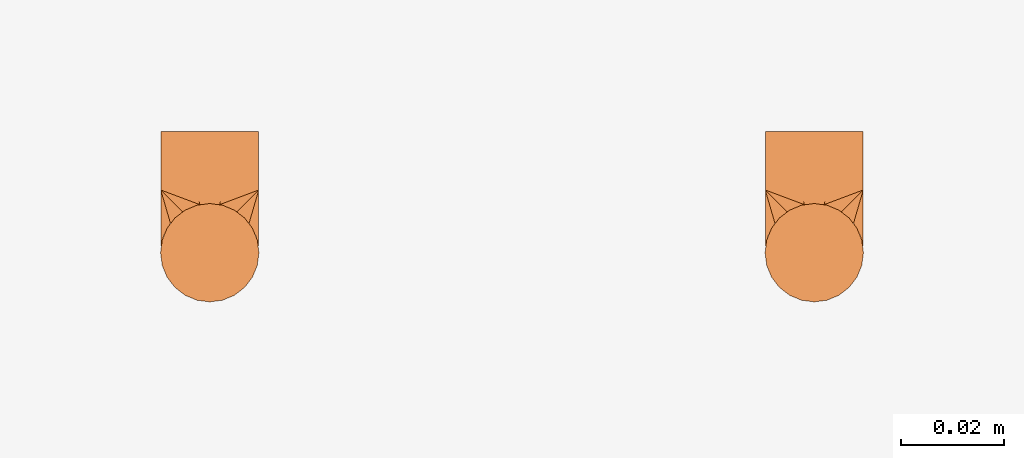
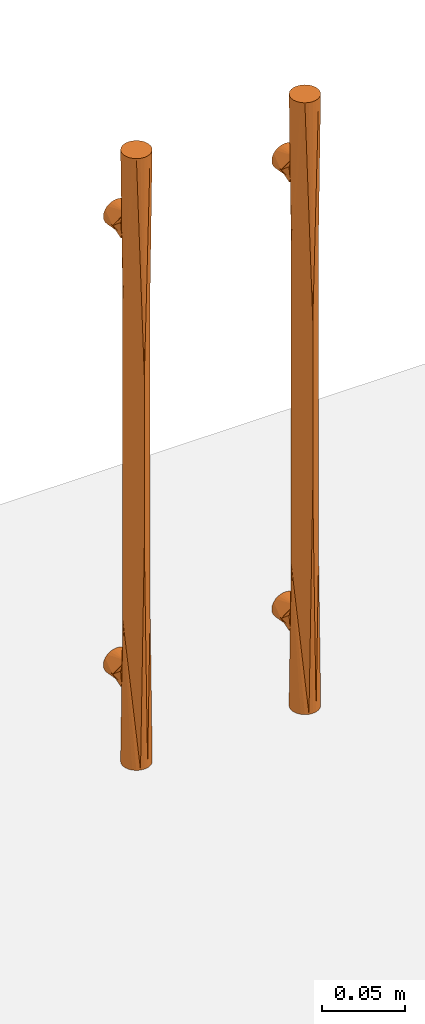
# One storey, part 3 of 4: 2 proxies.
"""IFC2X3 building model written with IfcOpenShell, lengths in millimetres."""

from ifc_helpers import new_model, entity, si_unit, converted_unit, derived_unit, direction, frame, origin, place, context, subcontext, project, spatial, faceted_brep, source, transform, mapped, material, type_object, type_shapes, element, save


model = new_model("IFC2X3")

# Units and contexts
model_context = context("Model", 3, precision=0.01, world=origin(), true_north=direction((6.12303176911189e-17, 1.0)))
context_of_model = context(None, 3, precision=0.01, world=origin(), true_north=direction((6.12303176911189e-17, 1.0)))
body_context = subcontext(model_context, "Body", "Model", "MODEL_VIEW")
ifc_project = project(units=[si_unit("LENGTHUNIT", "METRE", prefix="MILLI"), si_unit("AREAUNIT", "SQUARE_METRE"), si_unit("VOLUMEUNIT", "CUBIC_METRE"), converted_unit("PLANEANGLEUNIT", "DEGREE", entity("IfcRatioMeasure", 0.0174532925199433), si_unit("PLANEANGLEUNIT", "RADIAN"), dimensions=[0, 0, 0, 0, 0, 0, 0]), si_unit("MASSUNIT", "GRAM", prefix="KILO"), derived_unit("MASSDENSITYUNIT", [(si_unit("MASSUNIT", "GRAM", prefix="KILO"), 1), (si_unit("LENGTHUNIT", "METRE"), -3)]), si_unit("TIMEUNIT", "SECOND"), si_unit("FREQUENCYUNIT", "HERTZ"), si_unit("THERMODYNAMICTEMPERATUREUNIT", "DEGREE_CELSIUS"), derived_unit("THERMALTRANSMITTANCEUNIT", [(si_unit("MASSUNIT", "GRAM", prefix="KILO"), 1), (si_unit("THERMODYNAMICTEMPERATUREUNIT", "KELVIN"), -1), (si_unit("TIMEUNIT", "SECOND"), -3)]), derived_unit("VOLUMETRICFLOWRATEUNIT", [(si_unit("LENGTHUNIT", "METRE"), 3), (si_unit("TIMEUNIT", "SECOND"), -1)]), si_unit("ELECTRICCURRENTUNIT", "AMPERE"), si_unit("ELECTRICVOLTAGEUNIT", "VOLT"), si_unit("POWERUNIT", "WATT"), si_unit("FORCEUNIT", "NEWTON", prefix="KILO"), si_unit("ILLUMINANCEUNIT", "LUX"), si_unit("LUMINOUSFLUXUNIT", "LUMEN"), si_unit("LUMINOUSINTENSITYUNIT", "CANDELA"), derived_unit("USERDEFINED", [(si_unit("MASSUNIT", "GRAM", prefix="KILO"), -1), (si_unit("LENGTHUNIT", "METRE"), -2), (si_unit("TIMEUNIT", "SECOND"), 3), (si_unit("LUMINOUSFLUXUNIT", "LUMEN"), 1)]), derived_unit("LINEARVELOCITYUNIT", [(si_unit("LENGTHUNIT", "METRE"), 1), (si_unit("TIMEUNIT", "SECOND"), -1)]), si_unit("PRESSUREUNIT", "PASCAL"), derived_unit("USERDEFINED", [(si_unit("LENGTHUNIT", "METRE"), -2), (si_unit("MASSUNIT", "GRAM", prefix="KILO"), 1), (si_unit("TIMEUNIT", "SECOND"), -2)])], contexts=[model_context, context_of_model])

# Site, building, storey
site_placement = place(None, origin())
site = spatial("IfcSite", under=ifc_project, at=site_placement, Name="Default", CompositionType="ELEMENT")
building_placement = place(site_placement, origin())
building = spatial("IfcBuilding", under=site, at=building_placement, Name="n/a", CompositionType="ELEMENT")
storey_placement = place(building_placement, origin())
storey = spatial("IfcBuildingStorey", under=building, at=storey_placement, Name="Level 0", CompositionType="ELEMENT", Elevation=0.0)

# Proxies
ifc_material_1 = material(Name="DBLTD_Duten_Metal_BrushedStainlessSteel")
building_element_proxy_type_1 = type_object("IfcBuildingElementProxyType", PredefinedType="NOTDEFINED", material=ifc_material_1)
shared_shape_1 = source(origin(), body_context, "Body", "Brep", [
    faceted_brep([(18.7547280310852, 16.8611433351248, 384.331021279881), (20.1271758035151, 14.2969526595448, 386.945673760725), (20.1271758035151, 14.2969526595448, 393.054326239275), (18.7547280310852, 16.8611433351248, 395.668978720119), (3.50644367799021, 16.8585483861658, 395.666356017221), (3.50644367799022, 16.8585483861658, 384.333643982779), (16.4191813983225, 19.0676721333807, 382.10753097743), (5.84226515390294, 19.0665559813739, 382.108653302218), (20.6315606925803, 11.9627029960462, 390.0), (16.4191813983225, 19.0676721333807, 397.89246902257), (5.84226515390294, 19.0665559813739, 397.891346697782), (9.18928749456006, 20.4679610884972, 399.299331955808), (13.073195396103, 20.4680938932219, 399.299465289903), (9.18928749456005, 20.4679610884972, 380.700668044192), (13.0731953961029, 20.4680938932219, 380.700534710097), (2.13472865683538, 14.2934921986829, 386.949260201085), (2.13472865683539, 14.293492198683, 393.050739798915), (1.63156069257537, 11.9627029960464, 390.0), (13.5903416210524, 34.5952722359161, 399.176295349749), (15.8815606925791, 34.5952722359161, 398.227241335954), (17.8490751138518, 34.5952722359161, 396.717514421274), (19.3588020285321, 34.5952722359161, 394.750000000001), (20.3078560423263, 34.5952722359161, 392.458780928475), (20.6315606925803, 34.5952722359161, 390.0), (20.3078560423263, 34.5952722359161, 387.541219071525), (19.3588020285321, 34.5952722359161, 385.249999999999), (17.8490751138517, 34.5952722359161, 383.282485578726), (15.881560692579, 34.5952722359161, 381.772758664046), (13.5903416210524, 34.5952722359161, 380.823704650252), (11.1315606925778, 34.5952722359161, 380.499999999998), (8.67277976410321, 34.5952722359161, 380.823704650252), (6.38156069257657, 34.5952722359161, 381.772758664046), (4.41404627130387, 34.5952722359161, 383.282485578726), (2.90431935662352, 34.5952722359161, 385.249999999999), (1.9552653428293, 34.5952722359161, 387.541219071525), (1.63156069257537, 34.5952722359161, 390.0), (1.95526534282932, 34.5952722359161, 392.458780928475), (2.90431935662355, 34.5952722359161, 394.750000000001), (4.41404627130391, 34.5952722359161, 396.717514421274), (6.38156069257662, 34.5952722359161, 398.227241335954), (8.67277976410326, 34.5952722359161, 399.176295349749), (11.1315606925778, 34.5952722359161, 399.500000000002), (1.63156069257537, 23.2978504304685, 390.0), (1.63156069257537, 17.6302767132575, 390.0), (1.63156069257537, 14.7964898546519, 390.0), (20.6315606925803, 23.2978504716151, 390.0), (20.6315606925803, 17.6302767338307, 390.0), (20.6315606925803, 14.7964898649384, 390.0)], [[[0, 1, 2, 3]], [[0, 3, 4, 5]], [[6, 0, 7]], [[2, 1, 8]], [[9, 10, 3]], [[11, 9, 12]], [[13, 14, 6]], [[7, 0, 5]], [[15, 5, 4, 16]], [[11, 10, 9]], [[4, 3, 10]], [[16, 17, 15]], [[7, 13, 6]], [[18, 19, 20, 21, 22, 23, 24, 25, 26, 27, 28, 29, 30, 31, 32, 33, 34, 35, 36, 37, 38, 39, 40, 41]], [[34, 33, 42]], [[32, 13, 42]], [[32, 42, 33]], [[32, 31, 13]], [[15, 43, 5]], [[34, 42, 35]], [[15, 17, 44, 43]], [[13, 7, 42]], [[5, 42, 7]], [[13, 30, 29]], [[31, 30, 13]], [[43, 42, 5]], [[28, 14, 29]], [[27, 14, 28]], [[26, 25, 45]], [[27, 26, 14]], [[25, 24, 45]], [[0, 46, 1]], [[26, 45, 14]], [[14, 45, 6]], [[1, 46, 47, 8]], [[0, 6, 45]], [[23, 45, 24]], [[45, 46, 0]], [[29, 14, 13]], [[22, 21, 45]], [[20, 12, 45]], [[20, 45, 21]], [[20, 19, 12]], [[2, 46, 3]], [[22, 45, 23]], [[16, 43, 44, 17]], [[12, 9, 45]], [[3, 45, 9]], [[12, 18, 41]], [[4, 43, 16]], [[19, 18, 12]], [[42, 43, 4]], [[40, 11, 41]], [[39, 11, 40]], [[38, 37, 42]], [[39, 38, 11]], [[37, 36, 42]], [[2, 8, 47, 46]], [[38, 42, 11]], [[11, 42, 10]], [[4, 10, 42]], [[35, 42, 36]], [[46, 45, 3]], [[41, 11, 12]]]),
    faceted_brep([(13.5903416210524, 34.5952722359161, 69.176295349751), (15.8815606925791, 34.5952722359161, 68.2272413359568), (17.8490751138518, 34.5952722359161, 66.7175144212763), (19.3588020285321, 34.5952722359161, 64.7500000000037), (20.3078560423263, 34.5952722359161, 62.458780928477), (20.6315606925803, 34.5952722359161, 60.0), (20.3078560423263, 34.5952722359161, 57.5412190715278), (19.3588020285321, 34.5952722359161, 55.2500000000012), (17.8490751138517, 34.5952722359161, 53.2824855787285), (15.881560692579, 34.5952722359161, 51.7727586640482), (13.5903416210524, 34.5952722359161, 50.8237046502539), (11.1315606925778, 34.5952722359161, 50.5), (8.67277976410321, 34.5952722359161, 50.8237046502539), (6.38156069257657, 34.5952722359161, 51.7727586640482), (4.41404627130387, 34.5952722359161, 53.2824855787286), (2.90431935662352, 34.5952722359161, 55.2500000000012), (1.9552653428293, 34.5952722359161, 57.5412190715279), (1.63156069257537, 34.5952722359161, 60.0), (1.95526534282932, 34.5952722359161, 62.4587809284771), (2.90431935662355, 34.5952722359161, 64.7500000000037), (4.41404627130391, 34.5952722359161, 66.7175144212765), (6.38156069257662, 34.5952722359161, 68.2272413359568), (8.67277976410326, 34.5952722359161, 69.176295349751), (11.1315606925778, 34.5952722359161, 69.5000000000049), (1.63156069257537, 23.2978504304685, 60.0), (9.18928749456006, 20.4679610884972, 50.7006680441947), (2.13472865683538, 14.2934921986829, 56.9492602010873), (1.63156069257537, 17.6302767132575, 60.0), (3.50644367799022, 16.8585483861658, 54.3336439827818), (1.63156069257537, 11.9627029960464, 60.0), (1.63156069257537, 14.7964898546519, 60.0), (5.84226515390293, 19.0665559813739, 52.1086533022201), (13.073195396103, 20.4680938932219, 50.7005347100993), (20.6315606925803, 23.2978504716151, 60.0), (18.7547280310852, 16.8611433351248, 54.3310212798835), (20.6315606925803, 17.6302767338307, 60.0), (20.1271758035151, 14.2969526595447, 56.9456737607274), (16.4191813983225, 19.0676721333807, 52.1075309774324), (20.6315606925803, 14.7964898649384, 60.0), (20.6315606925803, 11.9627029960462, 60.0), (13.073195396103, 20.4680938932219, 69.2994652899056), (20.1271758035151, 14.2969526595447, 63.0543262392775), (18.7547280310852, 16.8611433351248, 65.6689787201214), (2.13472865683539, 14.293492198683, 63.0507397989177), (16.4191813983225, 19.0676721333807, 67.8924690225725), (3.50644367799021, 16.8585483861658, 65.6663560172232), (9.18928749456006, 20.4679610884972, 69.2993319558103), (5.84226515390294, 19.0665559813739, 67.8913466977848)], [[[0, 1, 2, 3, 4, 5, 6, 7, 8, 9, 10, 11, 12, 13, 14, 15, 16, 17, 18, 19, 20, 21, 22, 23]], [[16, 15, 24]], [[14, 25, 24]], [[14, 24, 15]], [[14, 13, 25]], [[26, 27, 28]], [[16, 24, 17]], [[26, 29, 30, 27]], [[25, 31, 24]], [[28, 24, 31]], [[25, 12, 11]], [[13, 12, 25]], [[27, 24, 28]], [[10, 32, 11]], [[9, 32, 10]], [[8, 7, 33]], [[9, 8, 32]], [[7, 6, 33]], [[34, 35, 36]], [[8, 33, 32]], [[32, 33, 37]], [[36, 35, 38, 39]], [[34, 37, 33]], [[5, 33, 6]], [[33, 35, 34]], [[11, 32, 25]], [[4, 3, 33]], [[2, 40, 33]], [[2, 33, 3]], [[2, 1, 40]], [[41, 35, 42]], [[4, 33, 5]], [[43, 27, 30, 29]], [[40, 44, 33]], [[42, 33, 44]], [[40, 0, 23]], [[45, 27, 43]], [[1, 0, 40]], [[24, 27, 45]], [[22, 46, 23]], [[21, 46, 22]], [[20, 19, 24]], [[21, 20, 46]], [[19, 18, 24]], [[41, 39, 38, 35]], [[20, 24, 46]], [[46, 24, 47]], [[45, 47, 24]], [[17, 24, 18]], [[35, 33, 42]], [[23, 46, 40]], [[34, 36, 41, 42]], [[34, 42, 45, 28]], [[37, 34, 31]], [[41, 36, 39]], [[44, 47, 42]], [[46, 44, 40]], [[25, 32, 37]], [[31, 34, 28]], [[26, 28, 45, 43]], [[46, 47, 44]], [[45, 42, 47]], [[43, 29, 26]], [[31, 25, 37]]]),
    faceted_brep([(13.5997337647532, 1.92021338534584, 450.0), (15.8997049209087, 2.87289263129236, 450.0), (17.8747349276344, 4.38838645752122, 450.0), (19.3902287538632, 6.36341646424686, 450.0), (20.3429079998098, 8.66338762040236, 450.0), (20.6678491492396, 11.1315606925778, 450.0), (20.3429079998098, 13.5997337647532, 450.0), (19.3902287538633, 15.8997049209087, 450.0), (17.8747349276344, 17.8747349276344, 450.0), (15.8997049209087, 19.3902287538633, 450.0), (13.5997337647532, 20.3429079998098, 450.0), (11.1315606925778, 20.6678491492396, 450.0), (8.66338762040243, 20.3429079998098, 450.0), (6.36341646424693, 19.3902287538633, 450.0), (4.38838645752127, 17.8747349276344, 450.0), (2.8728926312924, 15.8997049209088, 450.0), (1.92021338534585, 13.5997337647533, 450.0), (1.595272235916, 11.1315606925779, 450.0), (1.92021338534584, 8.66338762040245, 450.0), (2.87289263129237, 6.36341646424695, 450.0), (4.38838645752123, 4.38838645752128, 450.0), (6.36341646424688, 2.87289263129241, 450.0), (8.66338762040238, 1.92021338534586, 450.0), (11.1315606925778, 1.595272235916, 450.0), (20.3429079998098, 13.5997337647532, 0.0), (20.6678491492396, 11.1315606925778, 0.0), (20.3429079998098, 8.66338762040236, 0.0), (19.3902287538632, 6.36341646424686, 0.0), (17.8747349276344, 4.38838645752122, 0.0), (15.8997049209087, 2.87289263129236, 0.0), (13.5997337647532, 1.92021338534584, 0.0), (11.1315606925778, 1.595272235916, 0.0), (8.66338762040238, 1.92021338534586, 0.0), (6.36341646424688, 2.87289263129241, 0.0), (4.38838645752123, 4.38838645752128, 0.0), (2.87289263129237, 6.36341646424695, 0.0), (1.92021338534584, 8.66338762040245, 0.0), (1.595272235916, 11.1315606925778, 0.0), (1.92021338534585, 13.5997337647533, 0.0), (2.8728926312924, 15.8997049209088, 0.0), (4.38838645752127, 17.8747349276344, 0.0), (6.36341646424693, 19.3902287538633, 0.0), (8.66338762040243, 20.3429079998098, 0.0), (11.1315606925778, 20.6678491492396, 0.0), (13.5997337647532, 20.3429079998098, 0.0), (15.8997049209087, 19.3902287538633, 0.0), (17.8747349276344, 17.8747349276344, 0.0), (19.3902287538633, 15.8997049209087, 0.0), (11.1315607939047, 1.595272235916, 288.259633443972), (11.1315610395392, 1.59527223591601, 166.413462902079), (20.6678491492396, 11.1315606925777, 107.826913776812), (20.6678491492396, 11.1315606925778, 225.0), (20.6678491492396, 11.1315606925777, 234.346172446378), (1.595272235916, 11.1315606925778, 342.173083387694), (20.6678491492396, 11.1315606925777, 342.17308622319), (1.595272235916, 11.1315606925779, 107.826913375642), (1.595272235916, 11.1315606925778, 224.999998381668), (1.595272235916, 11.1315606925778, 234.34617730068), (11.131560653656, 20.6678491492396, 288.259633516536), (11.1315605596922, 20.6678491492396, 166.413462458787)], [[[0, 1, 2, 3, 4, 5, 6, 7, 8, 9, 10, 11, 12, 13, 14, 15, 16, 17, 18, 19, 20, 21, 22, 23]], [[24, 25, 26, 27, 28, 29, 30, 31, 32, 33, 34, 35, 36, 37, 38, 39, 40, 41, 42, 43, 44, 45, 46, 47]], [[0, 23, 48]], [[49, 50, 51, 52]], [[21, 53, 48]], [[54, 2, 1]], [[26, 25, 50]], [[4, 54, 5]], [[30, 50, 49]], [[32, 49, 55]], [[35, 55, 36]], [[18, 17, 53]], [[36, 55, 37]], [[34, 33, 55]], [[48, 23, 22]], [[48, 52, 54]], [[3, 54, 4]], [[56, 55, 49]], [[53, 19, 18]], [[55, 35, 34]], [[31, 49, 32]], [[33, 32, 55]], [[29, 50, 30]], [[50, 28, 27]], [[50, 27, 26]], [[30, 49, 31]], [[52, 48, 49]], [[3, 2, 54]], [[48, 56, 49]], [[20, 19, 53]], [[53, 21, 20]], [[21, 48, 22]], [[1, 0, 48]], [[54, 1, 48]], [[48, 53, 57, 56]], [[29, 28, 50]], [[53, 14, 13]], [[58, 54, 52, 51]], [[43, 59, 44]], [[15, 53, 16]], [[45, 44, 50]], [[50, 47, 46]], [[58, 57, 53]], [[59, 42, 55]], [[6, 5, 54]], [[50, 25, 24]], [[54, 7, 6]], [[44, 59, 50]], [[47, 50, 24]], [[50, 59, 51]], [[12, 11, 58]], [[10, 58, 11]], [[38, 37, 55]], [[17, 16, 53]], [[46, 45, 50]], [[41, 55, 42]], [[40, 39, 55]], [[58, 51, 59]], [[55, 39, 38]], [[42, 59, 43]], [[59, 57, 58]], [[15, 14, 53]], [[59, 55, 56, 57]], [[54, 8, 7]], [[54, 9, 8]], [[10, 9, 58]], [[12, 58, 13]], [[53, 13, 58]], [[9, 54, 58]], [[41, 40, 55]]]),
])
type_shapes(building_element_proxy_type_1, [shared_shape_1])
proxy_1_placement = place(storey_placement, frame((2350.69669078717, 266.619771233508, 775.0)))
element("IfcBuildingElementProxy", 1, at=proxy_1_placement, inside=storey, type_object=building_element_proxy_type_1, material=ifc_material_1, Name="(11)", ObjectType="DBLTD_Duten_PullHandles_Q911:Brushed Stainless Steel Pull Handle", context=body_context, shape_type="MappedRepresentation", body=[
    mapped(shared_shape_1, transform((0.0, 0.0, 0.0), scale=1.0)),
])
ifc_material_2 = material(Name="DBLTD_Duten_Metal_Chrome")
building_element_proxy_type_2 = type_object("IfcBuildingElementProxyType", PredefinedType="NOTDEFINED", material=ifc_material_2)
shared_shape_2 = source(origin(), body_context, "Body", "Brep", [
    faceted_brep([(18.7547280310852, 16.8611433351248, 384.331021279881), (20.1271758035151, 14.2969526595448, 386.945673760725), (20.1271758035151, 14.2969526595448, 393.054326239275), (18.7547280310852, 16.8611433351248, 395.668978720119), (3.50644367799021, 16.8585483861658, 395.666356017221), (3.50644367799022, 16.8585483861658, 384.333643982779), (16.4191813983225, 19.0676721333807, 382.10753097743), (5.84226515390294, 19.0665559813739, 382.108653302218), (20.6315606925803, 11.9627029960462, 390.0), (16.4191813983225, 19.0676721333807, 397.89246902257), (5.84226515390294, 19.0665559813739, 397.891346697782), (9.18928749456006, 20.4679610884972, 399.299331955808), (13.073195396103, 20.4680938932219, 399.299465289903), (9.18928749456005, 20.4679610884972, 380.700668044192), (13.0731953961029, 20.4680938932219, 380.700534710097), (2.13472865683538, 14.2934921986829, 386.949260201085), (2.13472865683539, 14.293492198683, 393.050739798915), (1.63156069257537, 11.9627029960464, 390.0), (13.5903416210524, 34.5952722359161, 399.176295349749), (15.8815606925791, 34.5952722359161, 398.227241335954), (17.8490751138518, 34.5952722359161, 396.717514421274), (19.3588020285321, 34.5952722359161, 394.750000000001), (20.3078560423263, 34.5952722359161, 392.458780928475), (20.6315606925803, 34.5952722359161, 390.0), (20.3078560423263, 34.5952722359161, 387.541219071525), (19.3588020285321, 34.5952722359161, 385.249999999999), (17.8490751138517, 34.5952722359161, 383.282485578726), (15.881560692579, 34.5952722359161, 381.772758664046), (13.5903416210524, 34.5952722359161, 380.823704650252), (11.1315606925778, 34.5952722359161, 380.499999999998), (8.67277976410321, 34.5952722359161, 380.823704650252), (6.38156069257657, 34.5952722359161, 381.772758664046), (4.41404627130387, 34.5952722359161, 383.282485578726), (2.90431935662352, 34.5952722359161, 385.249999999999), (1.9552653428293, 34.5952722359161, 387.541219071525), (1.63156069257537, 34.5952722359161, 390.0), (1.95526534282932, 34.5952722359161, 392.458780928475), (2.90431935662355, 34.5952722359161, 394.750000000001), (4.41404627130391, 34.5952722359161, 396.717514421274), (6.38156069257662, 34.5952722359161, 398.227241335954), (8.67277976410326, 34.5952722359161, 399.176295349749), (11.1315606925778, 34.5952722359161, 399.500000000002), (1.63156069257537, 23.2978504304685, 390.0), (1.63156069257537, 17.6302767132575, 390.0), (1.63156069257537, 14.7964898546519, 390.0), (20.6315606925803, 23.2978504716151, 390.0), (20.6315606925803, 17.6302767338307, 390.0), (20.6315606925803, 14.7964898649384, 390.0)], [[[0, 1, 2, 3]], [[0, 3, 4, 5]], [[6, 0, 7]], [[2, 1, 8]], [[9, 10, 3]], [[11, 9, 12]], [[13, 14, 6]], [[7, 0, 5]], [[15, 5, 4, 16]], [[11, 10, 9]], [[4, 3, 10]], [[16, 17, 15]], [[7, 13, 6]], [[18, 19, 20, 21, 22, 23, 24, 25, 26, 27, 28, 29, 30, 31, 32, 33, 34, 35, 36, 37, 38, 39, 40, 41]], [[34, 33, 42]], [[32, 13, 42]], [[32, 42, 33]], [[32, 31, 13]], [[15, 43, 5]], [[34, 42, 35]], [[15, 17, 44, 43]], [[13, 7, 42]], [[5, 42, 7]], [[13, 30, 29]], [[31, 30, 13]], [[43, 42, 5]], [[28, 14, 29]], [[27, 14, 28]], [[26, 25, 45]], [[27, 26, 14]], [[25, 24, 45]], [[0, 46, 1]], [[26, 45, 14]], [[14, 45, 6]], [[1, 46, 47, 8]], [[0, 6, 45]], [[23, 45, 24]], [[45, 46, 0]], [[29, 14, 13]], [[22, 21, 45]], [[20, 12, 45]], [[20, 45, 21]], [[20, 19, 12]], [[2, 46, 3]], [[22, 45, 23]], [[16, 43, 44, 17]], [[12, 9, 45]], [[3, 45, 9]], [[12, 18, 41]], [[4, 43, 16]], [[19, 18, 12]], [[42, 43, 4]], [[40, 11, 41]], [[39, 11, 40]], [[38, 37, 42]], [[39, 38, 11]], [[37, 36, 42]], [[2, 8, 47, 46]], [[38, 42, 11]], [[11, 42, 10]], [[4, 10, 42]], [[35, 42, 36]], [[46, 45, 3]], [[41, 11, 12]]]),
    faceted_brep([(13.5903416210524, 34.5952722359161, 69.176295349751), (15.8815606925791, 34.5952722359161, 68.2272413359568), (17.8490751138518, 34.5952722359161, 66.7175144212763), (19.3588020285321, 34.5952722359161, 64.7500000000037), (20.3078560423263, 34.5952722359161, 62.458780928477), (20.6315606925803, 34.5952722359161, 60.0), (20.3078560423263, 34.5952722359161, 57.5412190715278), (19.3588020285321, 34.5952722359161, 55.2500000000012), (17.8490751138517, 34.5952722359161, 53.2824855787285), (15.881560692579, 34.5952722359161, 51.7727586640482), (13.5903416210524, 34.5952722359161, 50.8237046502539), (11.1315606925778, 34.5952722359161, 50.5), (8.67277976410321, 34.5952722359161, 50.8237046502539), (6.38156069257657, 34.5952722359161, 51.7727586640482), (4.41404627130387, 34.5952722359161, 53.2824855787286), (2.90431935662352, 34.5952722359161, 55.2500000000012), (1.9552653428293, 34.5952722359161, 57.5412190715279), (1.63156069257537, 34.5952722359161, 60.0), (1.95526534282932, 34.5952722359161, 62.4587809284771), (2.90431935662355, 34.5952722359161, 64.7500000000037), (4.41404627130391, 34.5952722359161, 66.7175144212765), (6.38156069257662, 34.5952722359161, 68.2272413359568), (8.67277976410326, 34.5952722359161, 69.176295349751), (11.1315606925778, 34.5952722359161, 69.5000000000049), (1.63156069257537, 23.2978504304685, 60.0), (9.18928749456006, 20.4679610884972, 50.7006680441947), (2.13472865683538, 14.2934921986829, 56.9492602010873), (1.63156069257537, 17.6302767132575, 60.0), (3.50644367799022, 16.8585483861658, 54.3336439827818), (1.63156069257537, 11.9627029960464, 60.0), (1.63156069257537, 14.7964898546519, 60.0), (5.84226515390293, 19.0665559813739, 52.1086533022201), (13.073195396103, 20.4680938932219, 50.7005347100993), (20.6315606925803, 23.2978504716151, 60.0), (18.7547280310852, 16.8611433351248, 54.3310212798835), (20.6315606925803, 17.6302767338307, 60.0), (20.1271758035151, 14.2969526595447, 56.9456737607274), (16.4191813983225, 19.0676721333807, 52.1075309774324), (20.6315606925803, 14.7964898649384, 60.0), (20.6315606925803, 11.9627029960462, 60.0), (13.073195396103, 20.4680938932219, 69.2994652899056), (20.1271758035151, 14.2969526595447, 63.0543262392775), (18.7547280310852, 16.8611433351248, 65.6689787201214), (2.13472865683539, 14.293492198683, 63.0507397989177), (16.4191813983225, 19.0676721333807, 67.8924690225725), (3.50644367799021, 16.8585483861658, 65.6663560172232), (9.18928749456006, 20.4679610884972, 69.2993319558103), (5.84226515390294, 19.0665559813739, 67.8913466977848)], [[[0, 1, 2, 3, 4, 5, 6, 7, 8, 9, 10, 11, 12, 13, 14, 15, 16, 17, 18, 19, 20, 21, 22, 23]], [[16, 15, 24]], [[14, 25, 24]], [[14, 24, 15]], [[14, 13, 25]], [[26, 27, 28]], [[16, 24, 17]], [[26, 29, 30, 27]], [[25, 31, 24]], [[28, 24, 31]], [[25, 12, 11]], [[13, 12, 25]], [[27, 24, 28]], [[10, 32, 11]], [[9, 32, 10]], [[8, 7, 33]], [[9, 8, 32]], [[7, 6, 33]], [[34, 35, 36]], [[8, 33, 32]], [[32, 33, 37]], [[36, 35, 38, 39]], [[34, 37, 33]], [[5, 33, 6]], [[33, 35, 34]], [[11, 32, 25]], [[4, 3, 33]], [[2, 40, 33]], [[2, 33, 3]], [[2, 1, 40]], [[41, 35, 42]], [[4, 33, 5]], [[43, 27, 30, 29]], [[40, 44, 33]], [[42, 33, 44]], [[40, 0, 23]], [[45, 27, 43]], [[1, 0, 40]], [[24, 27, 45]], [[22, 46, 23]], [[21, 46, 22]], [[20, 19, 24]], [[21, 20, 46]], [[19, 18, 24]], [[41, 39, 38, 35]], [[20, 24, 46]], [[46, 24, 47]], [[45, 47, 24]], [[17, 24, 18]], [[35, 33, 42]], [[23, 46, 40]], [[34, 36, 41, 42]], [[34, 42, 45, 28]], [[37, 34, 31]], [[41, 36, 39]], [[44, 47, 42]], [[46, 44, 40]], [[25, 32, 37]], [[31, 34, 28]], [[26, 28, 45, 43]], [[46, 47, 44]], [[45, 42, 47]], [[43, 29, 26]], [[31, 25, 37]]]),
    faceted_brep([(13.5997337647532, 1.92021338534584, 450.0), (15.8997049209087, 2.87289263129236, 450.0), (17.8747349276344, 4.38838645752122, 450.0), (19.3902287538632, 6.36341646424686, 450.0), (20.3429079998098, 8.66338762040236, 450.0), (20.6678491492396, 11.1315606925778, 450.0), (20.3429079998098, 13.5997337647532, 450.0), (19.3902287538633, 15.8997049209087, 450.0), (17.8747349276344, 17.8747349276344, 450.0), (15.8997049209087, 19.3902287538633, 450.0), (13.5997337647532, 20.3429079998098, 450.0), (11.1315606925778, 20.6678491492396, 450.0), (8.66338762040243, 20.3429079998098, 450.0), (6.36341646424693, 19.3902287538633, 450.0), (4.38838645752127, 17.8747349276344, 450.0), (2.8728926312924, 15.8997049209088, 450.0), (1.92021338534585, 13.5997337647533, 450.0), (1.595272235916, 11.1315606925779, 450.0), (1.92021338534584, 8.66338762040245, 450.0), (2.87289263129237, 6.36341646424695, 450.0), (4.38838645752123, 4.38838645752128, 450.0), (6.36341646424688, 2.87289263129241, 450.0), (8.66338762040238, 1.92021338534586, 450.0), (11.1315606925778, 1.595272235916, 450.0), (20.3429079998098, 13.5997337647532, 0.0), (20.6678491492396, 11.1315606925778, 0.0), (20.3429079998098, 8.66338762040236, 0.0), (19.3902287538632, 6.36341646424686, 0.0), (17.8747349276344, 4.38838645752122, 0.0), (15.8997049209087, 2.87289263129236, 0.0), (13.5997337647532, 1.92021338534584, 0.0), (11.1315606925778, 1.595272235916, 0.0), (8.66338762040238, 1.92021338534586, 0.0), (6.36341646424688, 2.87289263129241, 0.0), (4.38838645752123, 4.38838645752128, 0.0), (2.87289263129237, 6.36341646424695, 0.0), (1.92021338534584, 8.66338762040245, 0.0), (1.595272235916, 11.1315606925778, 0.0), (1.92021338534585, 13.5997337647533, 0.0), (2.8728926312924, 15.8997049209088, 0.0), (4.38838645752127, 17.8747349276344, 0.0), (6.36341646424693, 19.3902287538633, 0.0), (8.66338762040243, 20.3429079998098, 0.0), (11.1315606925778, 20.6678491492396, 0.0), (13.5997337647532, 20.3429079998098, 0.0), (15.8997049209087, 19.3902287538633, 0.0), (17.8747349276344, 17.8747349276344, 0.0), (19.3902287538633, 15.8997049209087, 0.0), (11.1315607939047, 1.595272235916, 288.259633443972), (11.1315610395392, 1.59527223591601, 166.413462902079), (20.6678491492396, 11.1315606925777, 107.826913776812), (20.6678491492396, 11.1315606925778, 225.0), (20.6678491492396, 11.1315606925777, 234.346172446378), (1.595272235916, 11.1315606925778, 342.173083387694), (20.6678491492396, 11.1315606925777, 342.17308622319), (1.595272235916, 11.1315606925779, 107.826913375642), (1.595272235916, 11.1315606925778, 224.999998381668), (1.595272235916, 11.1315606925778, 234.34617730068), (11.131560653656, 20.6678491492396, 288.259633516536), (11.1315605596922, 20.6678491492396, 166.413462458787)], [[[0, 1, 2, 3, 4, 5, 6, 7, 8, 9, 10, 11, 12, 13, 14, 15, 16, 17, 18, 19, 20, 21, 22, 23]], [[24, 25, 26, 27, 28, 29, 30, 31, 32, 33, 34, 35, 36, 37, 38, 39, 40, 41, 42, 43, 44, 45, 46, 47]], [[0, 23, 48]], [[49, 50, 51, 52]], [[21, 53, 48]], [[54, 2, 1]], [[26, 25, 50]], [[4, 54, 5]], [[30, 50, 49]], [[32, 49, 55]], [[35, 55, 36]], [[18, 17, 53]], [[36, 55, 37]], [[34, 33, 55]], [[48, 23, 22]], [[48, 52, 54]], [[3, 54, 4]], [[56, 55, 49]], [[53, 19, 18]], [[55, 35, 34]], [[31, 49, 32]], [[33, 32, 55]], [[29, 50, 30]], [[50, 28, 27]], [[50, 27, 26]], [[30, 49, 31]], [[52, 48, 49]], [[3, 2, 54]], [[48, 56, 49]], [[20, 19, 53]], [[53, 21, 20]], [[21, 48, 22]], [[1, 0, 48]], [[54, 1, 48]], [[48, 53, 57, 56]], [[29, 28, 50]], [[53, 14, 13]], [[58, 54, 52, 51]], [[43, 59, 44]], [[15, 53, 16]], [[45, 44, 50]], [[50, 47, 46]], [[58, 57, 53]], [[59, 42, 55]], [[6, 5, 54]], [[50, 25, 24]], [[54, 7, 6]], [[44, 59, 50]], [[47, 50, 24]], [[50, 59, 51]], [[12, 11, 58]], [[10, 58, 11]], [[38, 37, 55]], [[17, 16, 53]], [[46, 45, 50]], [[41, 55, 42]], [[40, 39, 55]], [[58, 51, 59]], [[55, 39, 38]], [[42, 59, 43]], [[59, 57, 58]], [[15, 14, 53]], [[59, 55, 56, 57]], [[54, 8, 7]], [[54, 9, 8]], [[10, 9, 58]], [[12, 58, 13]], [[53, 13, 58]], [[9, 54, 58]], [[41, 40, 55]]]),
])
type_shapes(building_element_proxy_type_2, [shared_shape_2])
proxy_2_placement = place(storey_placement, frame((2467.90512322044, 266.619771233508, 775.0)))
element("IfcBuildingElementProxy", 2, at=proxy_2_placement, inside=storey, type_object=building_element_proxy_type_2, material=ifc_material_2, Name="(13)", ObjectType="DBLTD_Duten_PullHandles_Q911:Chrome Pull Handle", context=body_context, shape_type="MappedRepresentation", body=[
    mapped(shared_shape_2, transform((0.0, 0.0, 0.0), scale=1.0)),
])

save(model, "model.ifc")
